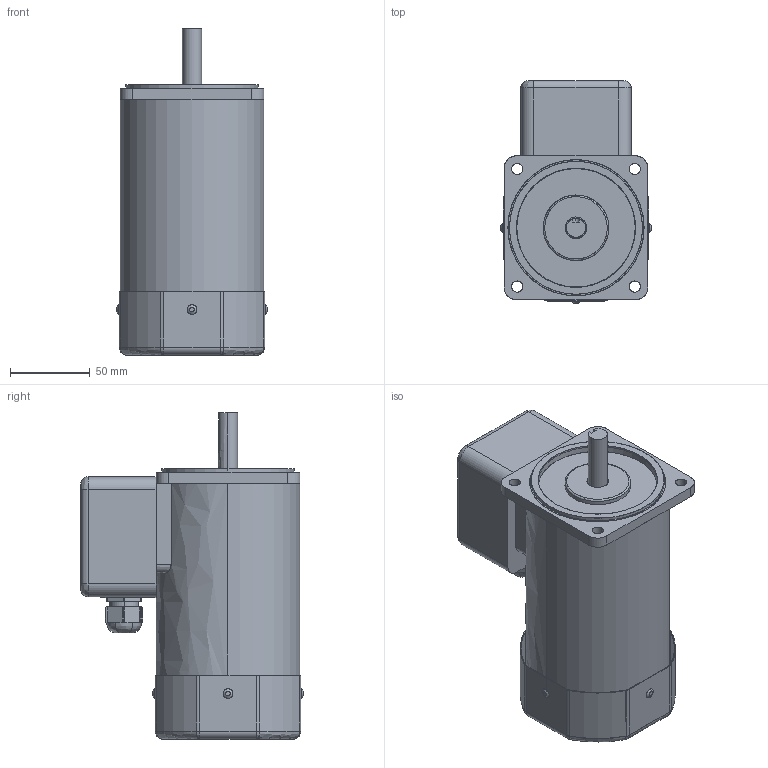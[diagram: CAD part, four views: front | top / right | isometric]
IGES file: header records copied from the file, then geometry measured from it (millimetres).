
Start section: SolidWorks IGES file using analytic representation for surfaces
Bounding box: 94 x 139 x 204 mm (x, y, z)
Surface area: 176312.3 mm2 (no closed solid volume)
Topology: 0 solids, 0 shells, 307 faces, 4871 edges, 4855 vertices
Faces by surface type: bspline 171, revolution 136
